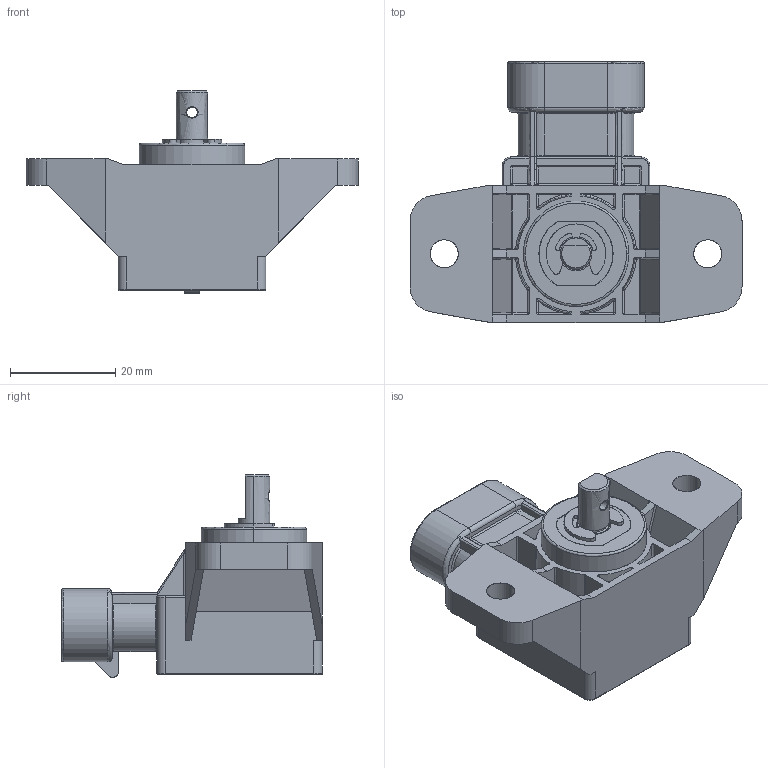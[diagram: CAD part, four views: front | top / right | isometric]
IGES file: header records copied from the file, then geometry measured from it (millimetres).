
Start section: SolidWorks IGES file using analytic representation for surfaces
Global section: file name: \\srv4gefran\dir-cat\Disegni Catalogo\Mobile\GR3P\GR3P 50\3D\Solidworks 2024\GR3PA S5H2LS xxx xxxx X0.IGS; native system: SolidWorks 2024; preprocessor: SolidWorks 2024; author: Loda-w1; date: 241219.162717; units: millimetre
Bounding box: 63 x 49.5 x 38.47 mm (x, y, z)
Surface area: 12780.9 mm2 (no closed solid volume)
Topology: 0 solids, 0 shells, 525 faces, 4588 edges, 4548 vertices
Faces by surface type: bspline 292, revolution 233
